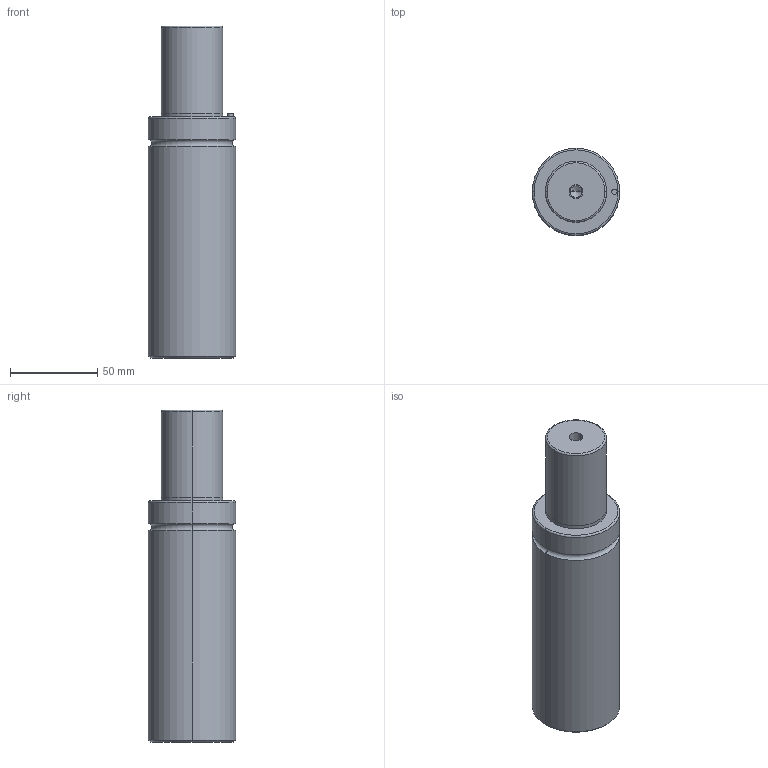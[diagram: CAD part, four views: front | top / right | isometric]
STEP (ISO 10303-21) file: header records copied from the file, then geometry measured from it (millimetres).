
FILE_DESCRIPTION(/* description */ (''),/* implementation_level */ '2;1');
FILE_NAME(/* name */ '3d_gsm50-50_03935_r00.stp',/* time_stamp */ '2011-01-10T14:15:15+09:00',/* author */ ('MISUMI'),/* organization */ (''),/* preprocessor_version */ 'ST-DEVELOPER v11',/* originating_system */ 'UGS - NX 5.0',/* authorisation */ '');
FILE_SCHEMA (('CONFIG_CONTROL_DESIGN'));
Length unit declared in the file: millimetre
Products named in the file (1): 3d_gsm50-50_03935_r00
Bounding box: 50 x 50 x 190 mm (x, y, z)
Volume: 317046.5 mm3; surface area: 32883.1 mm2
Topology: 1 solids, 1 shells, 50 faces, 106 edges, 60 vertices
Faces by surface type: cylinder 26, cone 10, plane 8, torus 6
Entity records: 1382 total; most frequent: DIRECTION 262, CARTESIAN_POINT 209, ORIENTED_EDGE 196, AXIS2_PLACEMENT_3D 113, EDGE_CURVE 98, CIRCLE 62, EDGE_LOOP 60, VERTEX_POINT 60
